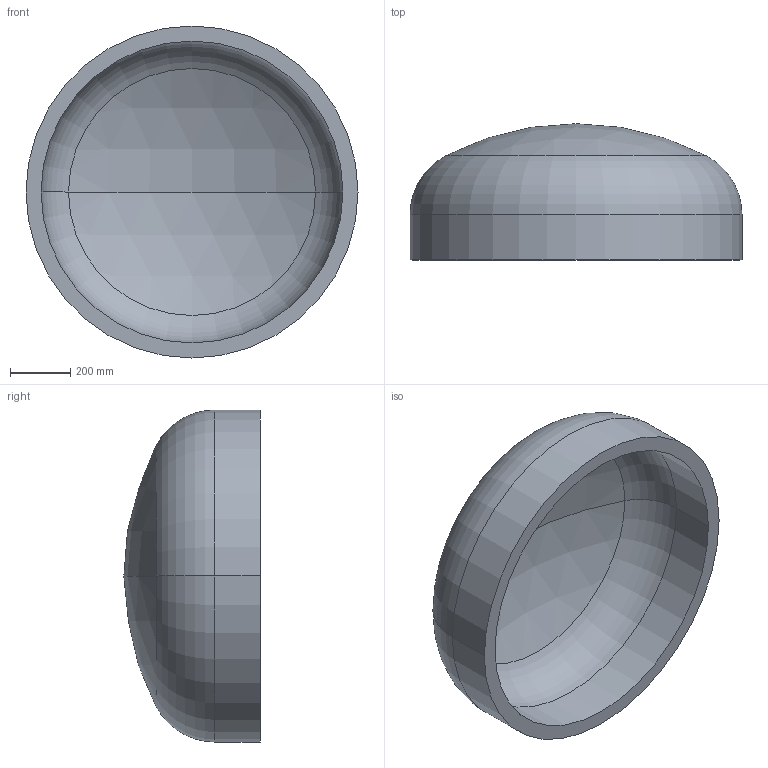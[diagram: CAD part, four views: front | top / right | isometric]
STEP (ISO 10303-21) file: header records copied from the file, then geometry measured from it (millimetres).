
FILE_DESCRIPTION (( 'STEP AP203' ), '1' );
FILE_NAME ('DIN 28013 Korbbogenform_-_Boden DIN 28013 - 1100 x 150 - I - s=50.step', '2016-07-01T09:09:55', ( '' ), ( '' ), 'SwSTEP 2.0', 'SolidWorks 2013', '' );
FILE_SCHEMA (( 'CONFIG_CONTROL_DESIGN' ));
Length unit declared in the file: millimetre
Products named in the file (1): DIN 28013 Korbbogenform_-_Boden DIN 28013 - 1100 x 150 - I - s=50
Bounding box: 1100 x 451.35 x 1100 mm (x, y, z)
Volume: 86847188.6 mm3; surface area: 3644056.4 mm2
Topology: 1 solids, 1 shells, 13 faces, 24 edges, 14 vertices
Faces by surface type: torus 4, cylinder 4, sphere 4, plane 1
Entity records: 407 total; most frequent: DIRECTION 72, CARTESIAN_POINT 52, ORIENTED_EDGE 48, AXIS2_PLACEMENT_3D 34, EDGE_CURVE 24, CIRCLE 20, EDGE_LOOP 14, VERTEX_POINT 14
